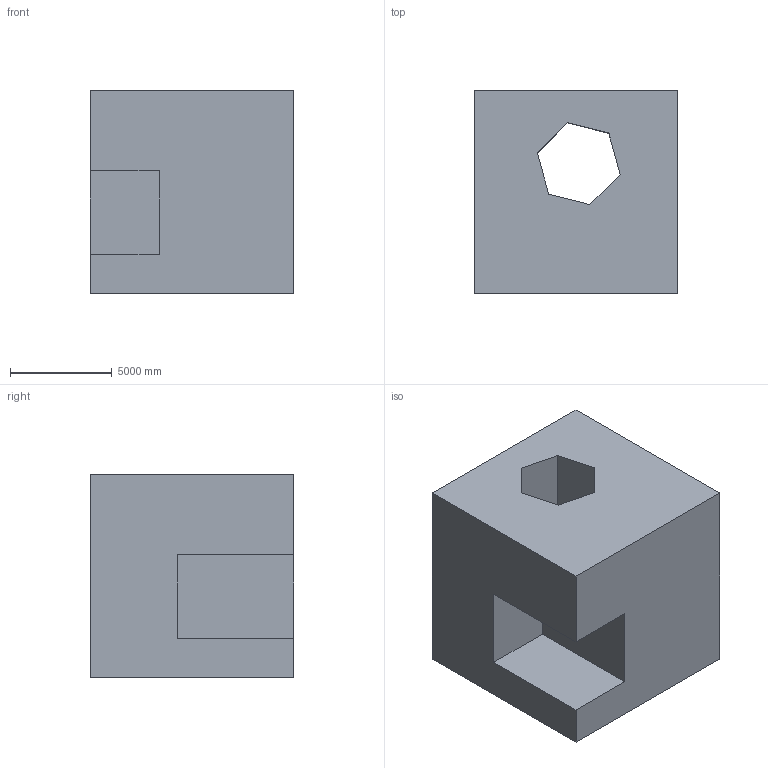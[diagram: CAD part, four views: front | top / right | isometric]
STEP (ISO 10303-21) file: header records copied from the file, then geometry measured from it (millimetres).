
FILE_DESCRIPTION (( 'STEP AP203' ), '1' );
FILE_NAME ('121.STEP', '2022-07-28T13:40:06', ( 'user' ), ( '' ), 'SwSTEP 2.0', 'SolidWorks 2021', '' );
FILE_SCHEMA (( 'CONFIG_CONTROL_DESIGN' ));
Length unit declared in the file: centimetre
Products named in the file (1): 121
Bounding box: 10000 x 10000 x 10000 mm (x, y, z)
Volume: 805765513118.6 mm3; surface area: 741936266.1 mm2
Topology: 1 solids, 1 shells, 16 faces, 42 edges, 28 vertices
Faces by surface type: plane 16
Entity records: 567 total; most frequent: CARTESIAN_POINT 87, ORIENTED_EDGE 84, DIRECTION 76, LINE 42, VECTOR 42, EDGE_CURVE 42, VERTEX_POINT 28, EDGE_LOOP 18
